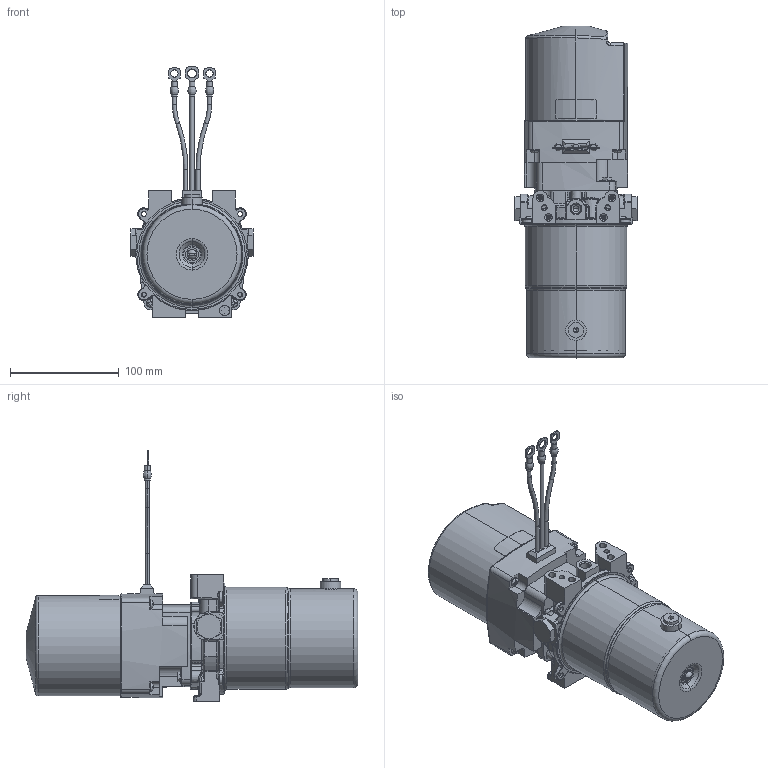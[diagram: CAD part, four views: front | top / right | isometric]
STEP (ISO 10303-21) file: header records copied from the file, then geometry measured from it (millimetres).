
FILE_DESCRIPTION((''),'2;1');
FILE_NAME('645315_SW0001','2015-03-10T',('da10877'),('OILDYNE'),'PRO/ENGINEER BY PARAMETRIC TECHNOLOGY CORPORATION, 2009300','PRO/ENGINEER BY PARAMETRIC TECHNOLOGY CORPORATION, 2009300','');
FILE_SCHEMA(('CONFIG_CONTROL_DESIGN'));
Products named in the file (1): 645315_SW0001
Bounding box: 113.28 x 305.86 x 231.13 mm (x, y, z)
Surface area: 219575.7 mm2 (no closed solid volume)
Topology: 0 solids, 40 shells, 1596 faces, 4290 edges, 2655 vertices
Faces by surface type: bspline 403, cylinder 349, plane 311, cone 248, torus 238, sphere 44, extrusion 2, revolution 1
Entity records: 78901 total; most frequent: CARTESIAN_POINT 42237, ORIENTED_EDGE 7723, DIRECTION 7294, EDGE_CURVE 4254, AXIS2_PLACEMENT_3D 3071, VERTEX_POINT 2655, CIRCLE 1881, EDGE_LOOP 1704
